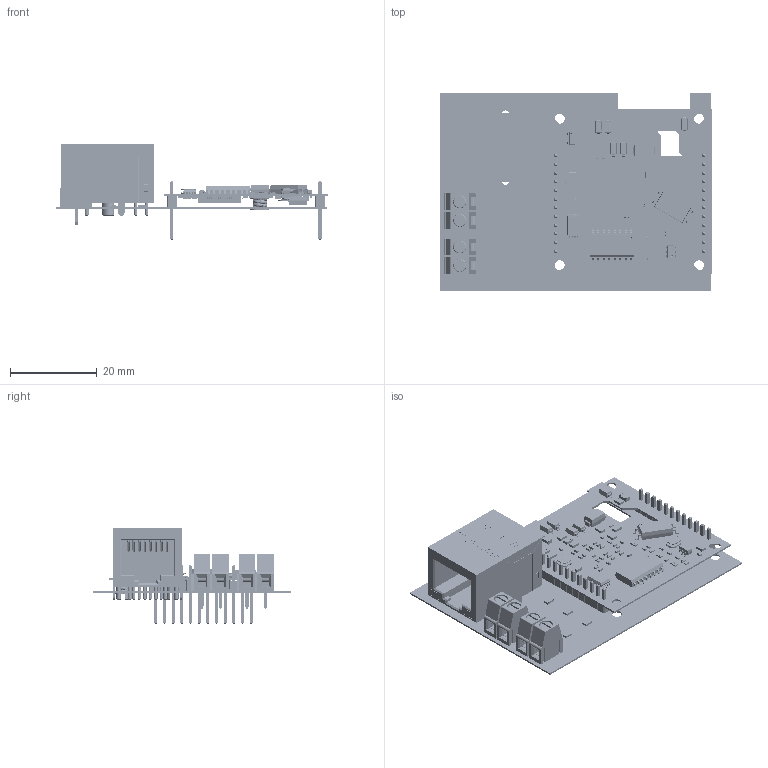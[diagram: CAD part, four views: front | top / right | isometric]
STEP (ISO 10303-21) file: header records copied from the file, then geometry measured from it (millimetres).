
FILE_DESCRIPTION(('Open CASCADE Model'),'2;1');
FILE_NAME('Open CASCADE Shape Model','2017-11-06T17:07:37',('Author'),( 'Open CASCADE'),'Open CASCADE STEP processor 6.8','Open CASCADE 6.8' ,'Unknown');
FILE_SCHEMA(('AUTOMOTIVE_DESIGN { 1 0 10303 214 1 1 1 1 }'));
Length unit declared in the file: millimetre
Products named in the file (198): PCB; Board; R3; R_0805; LOGO?; R2; R1; L3; 1920721504; Extruded; 1112568464; 1069772336; 1069772472; L2; H2; KF128; LOGO?0.75; U1; HanRun-HR911105A; H3; L1; Free-Models; ????; Open_CASCADE_STEP_translator_6.5_1.2; User_Library-C0402; Open_CASCADE_STEP_translator_6.5_1.3; Open_CASCADE_STEP_translator_6.5_1.4; Open_CASCADE_STEP_translator_6.5_1.5; User_Library-EP-Con-0100-Header-1RowEP-Con-0100-Header-1Row-01; Open_CASCADE_STEP_translator_6.5_1.6; Open_CASCADE_STEP_translator_6.5_1.7; Open_CASCADE_STEP_translator_6.5_1.8; User_Library-RES_1005-0402; Open_CASCADE_STEP_translator_6.5_1.9; Open_CASCADE_STEP_translator_6.5_1.10; Open_CASCADE_STEP_translator_6.5_1.11; Open_CASCADE_STEP_translator_6.5_1.12; Open_CASCADE_STEP_translator_6.5_1.13; User_Library-RES_2013-0805; 745764832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
Assembly tree (446 placements, depth 6):
  PCB
    Board
    R3
      R_0805
        R_0805
        LOGO?
    R2
      R_0805
        R_0805
        LOGO?
    R1
      R_0805
        R_0805
        LOGO?
    L3
      1920721504
        Extruded
      1112568464
        Extruded
      1069772336
        Extruded
      1069772472
        Extruded
    L2
      1920721504
        Extruded
      1112568464
        Extruded
      1069772336
        Extruded
      1069772472
        Extruded
    H2
      KF128  x2
        KF128
        LOGO?0.75
    U1
      HanRun-HR911105A
    H3
      KF128  x2
        KF128
        LOGO?0.75
    L1
      1920721504
        Extruded
      1112568464
        Extruded
      1069772336
        Extruded
      1069772472
        Extruded
    Free-Models
      ????
        Board
        Open_CASCADE_STEP_translator_6.5_1.2
          User_Library-C0402
        Open_CASCADE_STEP_translator_6.5_1.3
          User_Library-C0402
        Open_CASCADE_STEP_translator_6.5_1.4
          User_Library-C0402
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Bounding box: 62.89 x 45.62 x 22.06 mm (x, y, z)
Volume: 6507.2 mm3; surface area: 16275 mm2
Topology: 639 solids, 639 shells, 17814 faces, 43240 edges, 26284 vertices
Faces by surface type: plane 9298, cylinder 3987, bspline 3815, sphere 366, torus 316, cone 32
Full cylindrical faces by diameter (mm): 0.6 x24, 0.9 x24, 0.914 x12, 1.3 x4, 1.651 x2, 2.286 x4, 3.2 x2
Entity records: 145462 total; most frequent: CARTESIAN_POINT 49747, ORIENTED_EDGE 16100, DIRECTION 14639, EDGE_CURVE 8050, VERTEX_POINT 5218, LINE 5057, VECTOR 5057, AXIS2_PLACEMENT_3D 4791
